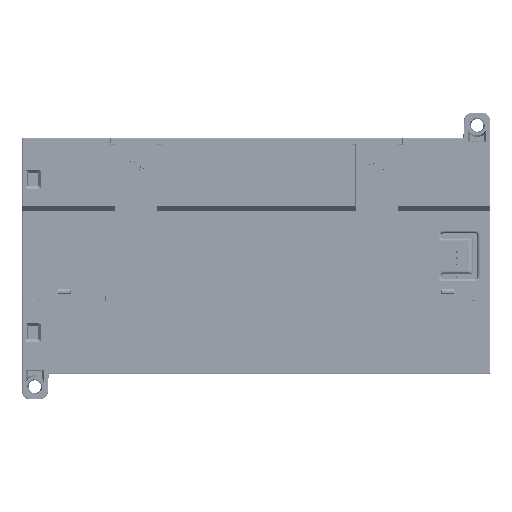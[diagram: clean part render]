
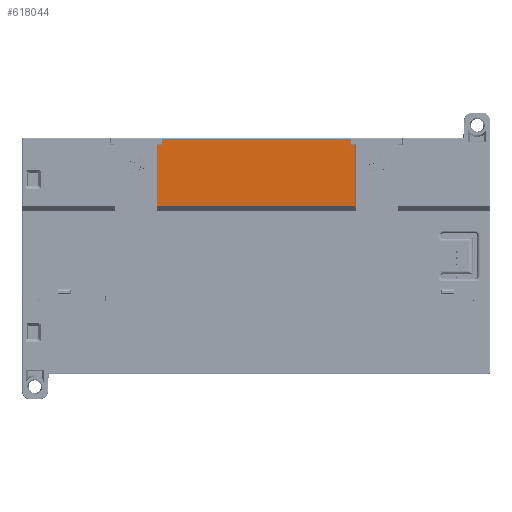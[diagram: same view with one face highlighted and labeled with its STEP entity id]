
A CAD part, front view. The second image highlights one B-rep face of the part: STEP entity #618044.
In plain terms, the highlighted planar face has unit normal (0, -1, 0).
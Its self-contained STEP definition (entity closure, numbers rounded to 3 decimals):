
#9209 = CARTESIAN_POINT ( 'NONE',  ( -138.771, 2.384, 1.309 ) ) ;
#54856 = DIRECTION ( 'NONE',  ( 0., 0., -1. ) ) ;
#75807 = EDGE_CURVE ( 'NONE', #324845, #405786, #267121, .T. ) ;
#85860 = VECTOR ( 'NONE', #54856, 1000. ) ;
#86121 = DIRECTION ( 'NONE',  ( 0., 1., 0. ) ) ;
#90835 = VERTEX_POINT ( 'NONE', #9209 ) ;
#91361 = CARTESIAN_POINT ( 'NONE',  ( -61.763, 2.384, -25.691 ) ) ;
#112223 = CARTESIAN_POINT ( 'NONE',  ( -138.771, 2.384, -14.322 ) ) ;
#116919 = CARTESIAN_POINT ( 'NONE',  ( -140.57, 2.384, -1.1 ) ) ;
#136507 = CARTESIAN_POINT ( 'NONE',  ( -140.57, 2.384, -27.491 ) ) ;
#141723 = CARTESIAN_POINT ( 'NONE',  ( -138.771, 2.384, -1.1 ) ) ;
#165893 = EDGE_CURVE ( 'NONE', #477681, #748385, #900992, .T. ) ;
#192379 = VECTOR ( 'NONE', #836787, 1000. ) ;
#210952 = EDGE_LOOP ( 'NONE', ( #656841, #605949, #734145, #698124, #456764, #576762, #285338, #394222 ) ) ;
#234781 = VERTEX_POINT ( 'NONE', #630352 ) ;
#243271 = EDGE_CURVE ( 'NONE', #405786, #90835, #752096, .T. ) ;
#261978 = EDGE_CURVE ( 'NONE', #800635, #477681, #409990, .T. ) ;
#267121 = LINE ( 'NONE', #551814, #192379 ) ;
#274261 = VECTOR ( 'NONE', #563337, 1000. ) ;
#274943 = LINE ( 'NONE', #559574, #866445 ) ;
#278740 = CARTESIAN_POINT ( 'NONE',  ( -132.547, 2.384, -1.1 ) ) ;
#285338 = ORIENTED_EDGE ( 'NONE', *, *, #165893, .F. ) ;
#324845 = VERTEX_POINT ( 'NONE', #116919 ) ;
#353352 = LINE ( 'NONE', #638021, #754145 ) ;
#371336 = DIRECTION ( 'NONE',  ( 0., 0., 1. ) ) ;
#394222 = ORIENTED_EDGE ( 'NONE', *, *, #261978, .F. ) ;
#397273 = DIRECTION ( 'NONE',  ( 0., 0., 1. ) ) ;
#400486 = EDGE_CURVE ( 'NONE', #234781, #847667, #353352, .T. ) ;
#405786 = VERTEX_POINT ( 'NONE', #141723 ) ;
#409990 = LINE ( 'NONE', #694777, #85860 ) ;
#416749 = VECTOR ( 'NONE', #421401, 1000. ) ;
#421401 = DIRECTION ( 'NONE',  ( 0., 0., 1. ) ) ;
#425527 = CARTESIAN_POINT ( 'NONE',  ( -140.57, 2.384, -25.691 ) ) ;
#450823 = EDGE_CURVE ( 'NONE', #748385, #324845, #776351, .T. ) ;
#456764 = ORIENTED_EDGE ( 'NONE', *, *, #75807, .F. ) ;
#475957 = CARTESIAN_POINT ( 'NONE',  ( 18.863, 2.384, -25.691 ) ) ;
#477681 = VERTEX_POINT ( 'NONE', #91361 ) ;
#517132 = CARTESIAN_POINT ( 'NONE',  ( -61.763, 2.384, -1.1 ) ) ;
#537033 = VECTOR ( 'NONE', #397273, 1000. ) ;
#551814 = CARTESIAN_POINT ( 'NONE',  ( -158.287, 2.384, -1.1 ) ) ;
#559574 = CARTESIAN_POINT ( 'NONE',  ( 18.863, 2.384, 1.309 ) ) ;
#563337 = DIRECTION ( 'NONE',  ( 1., 0., 0. ) ) ;
#565816 = CARTESIAN_POINT ( 'NONE',  ( -63.562, 2.384, -1.1 ) ) ;
#576701 = FACE_OUTER_BOUND ( 'NONE', #210952, .T. ) ;
#576762 = ORIENTED_EDGE ( 'NONE', *, *, #450823, .F. ) ;
#584113 = VECTOR ( 'NONE', #760845, 1000. ) ;
#605949 = ORIENTED_EDGE ( 'NONE', *, *, #400486, .F. ) ;
#618044 = ADVANCED_FACE ( 'NONE', ( #576701 ), #861612, .F. ) ;
#630352 = CARTESIAN_POINT ( 'NONE',  ( -63.562, 2.384, 1.309 ) ) ;
#638021 = CARTESIAN_POINT ( 'NONE',  ( -63.562, 2.384, -14.322 ) ) ;
#656841 = ORIENTED_EDGE ( 'NONE', *, *, #760989, .F. ) ;
#669128 = EDGE_CURVE ( 'NONE', #90835, #234781, #274943, .T. ) ;
#694777 = CARTESIAN_POINT ( 'NONE',  ( -61.763, 2.384, -27.491 ) ) ;
#698124 = ORIENTED_EDGE ( 'NONE', *, *, #243271, .F. ) ;
#726071 = CARTESIAN_POINT ( 'NONE',  ( 18.863, 2.384, -46.041 ) ) ;
#734145 = ORIENTED_EDGE ( 'NONE', *, *, #669128, .F. ) ;
#748385 = VERTEX_POINT ( 'NONE', #425527 ) ;
#752096 = LINE ( 'NONE', #112223, #537033 ) ;
#754145 = VECTOR ( 'NONE', #922993, 1000. ) ;
#760845 = DIRECTION ( 'NONE',  ( -1., 0., 0. ) ) ;
#760989 = EDGE_CURVE ( 'NONE', #847667, #800635, #918408, .T. ) ;
#776351 = LINE ( 'NONE', #136507, #416749 ) ;
#781144 = AXIS2_PLACEMENT_3D ( 'NONE', #726071, #86121, #371336 ) ;
#800635 = VERTEX_POINT ( 'NONE', #517132 ) ;
#836787 = DIRECTION ( 'NONE',  ( 1., 0., 0. ) ) ;
#844557 = DIRECTION ( 'NONE',  ( 1., 0., 0. ) ) ;
#847667 = VERTEX_POINT ( 'NONE', #565816 ) ;
#861612 = PLANE ( 'NONE',  #781144 ) ;
#866445 = VECTOR ( 'NONE', #844557, 1000. ) ;
#900992 = LINE ( 'NONE', #475957, #584113 ) ;
#918408 = LINE ( 'NONE', #278740, #274261 ) ;
#922993 = DIRECTION ( 'NONE',  ( 0., 0., -1. ) ) ;
